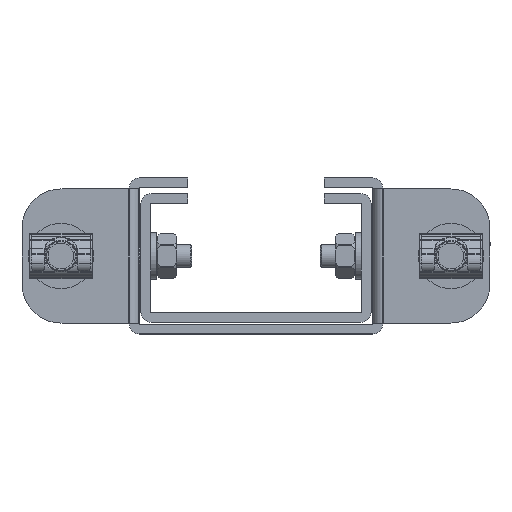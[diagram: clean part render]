
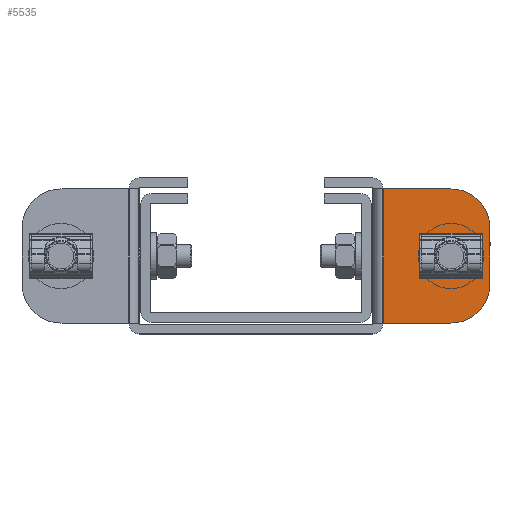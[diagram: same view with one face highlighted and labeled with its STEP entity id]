
A CAD part, left-side view. The second image highlights one B-rep face of the part: STEP entity #5535.
In plain terms, the highlighted planar face has unit normal (-1, 0, 0).
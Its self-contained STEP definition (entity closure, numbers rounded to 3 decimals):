
#279=PLANE('',#6411);
#444=LINE('',#8613,#924);
#449=LINE('',#8622,#929);
#450=LINE('',#8624,#930);
#451=LINE('',#8626,#931);
#924=VECTOR('',#7003,1000.);
#929=VECTOR('',#7012,1000.);
#930=VECTOR('',#7013,1000.);
#931=VECTOR('',#7014,1000.);
#1427=ORIENTED_EDGE('',*,*,#3039,.T.);
#1428=ORIENTED_EDGE('',*,*,#3018,.T.);
#1429=ORIENTED_EDGE('',*,*,#3034,.T.);
#1430=ORIENTED_EDGE('',*,*,#3014,.T.);
#1431=ORIENTED_EDGE('',*,*,#3040,.T.);
#1432=ORIENTED_EDGE('',*,*,#3041,.F.);
#1433=ORIENTED_EDGE('',*,*,#3032,.F.);
#3014=EDGE_CURVE('',#3823,#3824,#4368,.T.);
#3018=EDGE_CURVE('',#3827,#3828,#4370,.T.);
#3032=EDGE_CURVE('',#3841,#3841,#4378,.T.);
#3034=EDGE_CURVE('',#3828,#3823,#444,.T.);
#3039=EDGE_CURVE('',#3845,#3827,#449,.T.);
#3040=EDGE_CURVE('',#3824,#3846,#450,.T.);
#3041=EDGE_CURVE('',#3845,#3846,#451,.T.);
#3823=VERTEX_POINT('',#8568);
#3824=VERTEX_POINT('',#8569);
#3827=VERTEX_POINT('',#8577);
#3828=VERTEX_POINT('',#8578);
#3841=VERTEX_POINT('',#8609);
#3845=VERTEX_POINT('',#8623);
#3846=VERTEX_POINT('',#8625);
#4368=CIRCLE('',#6392,10.);
#4370=CIRCLE('',#6395,10.);
#4378=CIRCLE('',#6407,4.25);
#4606=EDGE_LOOP('',(#1427,#1428,#1429,#1430,#1431,#1432));
#4607=EDGE_LOOP('',(#1433));
#5012=FACE_BOUND('',#4606,.T.);
#5013=FACE_BOUND('',#4607,.T.);
#5535=ADVANCED_FACE('',(#5012,#5013),#279,.F.);
#6392=AXIS2_PLACEMENT_3D('',#8567,#6959,#6960);
#6395=AXIS2_PLACEMENT_3D('',#8576,#6967,#6968);
#6407=AXIS2_PLACEMENT_3D('',#8608,#6997,#6998);
#6411=AXIS2_PLACEMENT_3D('',#8621,#7010,#7011);
#6959=DIRECTION('',(-1.,0.,0.));
#6960=DIRECTION('',(0.,1.,0.));
#6967=DIRECTION('',(-1.,0.,0.));
#6968=DIRECTION('',(0.,1.,0.));
#6997=DIRECTION('',(-1.,0.,0.));
#6998=DIRECTION('',(0.,1.,0.));
#7003=DIRECTION('',(0.,0.,1.));
#7010=DIRECTION('',(1.,0.,0.));
#7011=DIRECTION('',(0.,1.,0.));
#7012=DIRECTION('',(0.,-1.,0.));
#7013=DIRECTION('',(0.,1.,0.));
#7014=DIRECTION('',(0.,0.,1.));
#8567=CARTESIAN_POINT('',(-2.8,-50.,24.7));
#8568=CARTESIAN_POINT('',(-2.8,-60.,24.7));
#8569=CARTESIAN_POINT('',(-2.8,-50.,34.7));
#8576=CARTESIAN_POINT('',(-2.8,-50.,10.3));
#8577=CARTESIAN_POINT('',(-2.8,-50.,0.3));
#8578=CARTESIAN_POINT('',(-2.8,-60.,10.3));
#8608=CARTESIAN_POINT('',(-2.8,-50.,17.5));
#8609=CARTESIAN_POINT('',(-2.8,-45.75,17.5));
#8613=CARTESIAN_POINT('',(-2.8,-60.,0.));
#8621=CARTESIAN_POINT('',(-2.8,0.,0.));
#8622=CARTESIAN_POINT('',(-2.8,0.,0.3));
#8623=CARTESIAN_POINT('',(-2.8,-32.6,0.3));
#8624=CARTESIAN_POINT('',(-2.8,0.,34.7));
#8625=CARTESIAN_POINT('',(-2.8,-32.6,34.7));
#8626=CARTESIAN_POINT('',(-2.8,-32.6,0.3));
